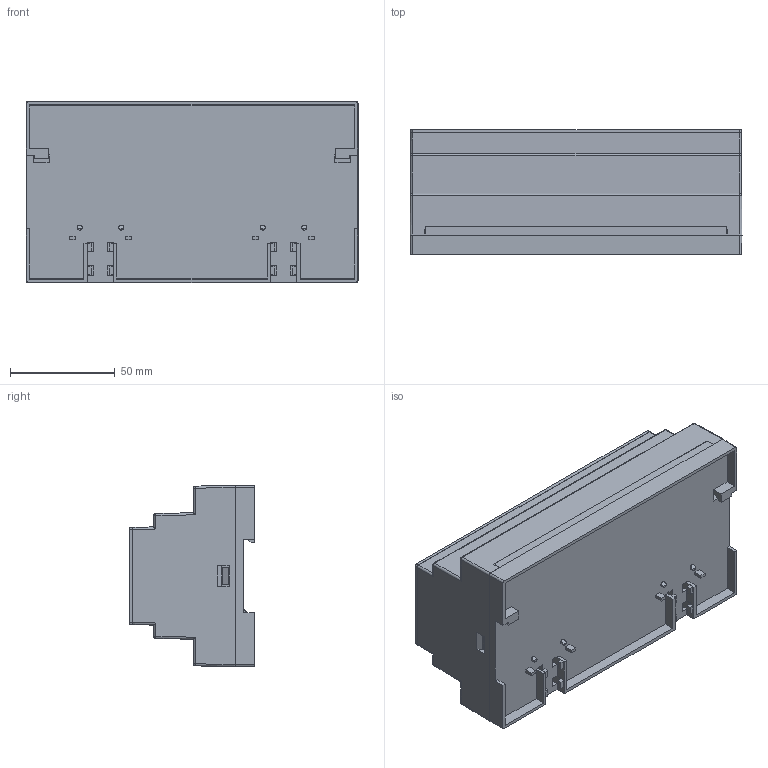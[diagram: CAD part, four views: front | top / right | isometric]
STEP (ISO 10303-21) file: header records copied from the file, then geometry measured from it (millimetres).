
FILE_DESCRIPTION (( 'STEP AP203' ), '1' );
FILE_NAME ('RT-109-A.STEP', '2022-08-29T09:20:08', ( '' ), ( '' ), 'SwSTEP 2.0', 'SolidWorks 2021', '' );
FILE_SCHEMA (( 'CONFIG_CONTROL_DESIGN' ));
Length unit declared in the file: millimetre
Products named in the file (4): RT-109-P-3; RT-109-A; RT-109-P-5; RT-109-P-2
Assembly tree (3 placements, depth 2):
  RT-109-A
    RT-109-P-3
    RT-109-P-5
    RT-109-P-2
Bounding box: 158.3 x 59.4 x 86.5 mm (x, y, z)
Volume: 134709.5 mm3; surface area: 123350.2 mm2
Topology: 3 solids, 3 shells, 552 faces, 1562 edges, 1026 vertices
Faces by surface type: plane 424, cylinder 48, bspline 48, cone 24, sphere 8
Entity records: 18276 total; most frequent: CARTESIAN_POINT 3578, ORIENTED_EDGE 3124, DIRECTION 2766, EDGE_CURVE 1562, VECTOR 1314, LINE 1314, VERTEX_POINT 1026, AXIS2_PLACEMENT_3D 726
